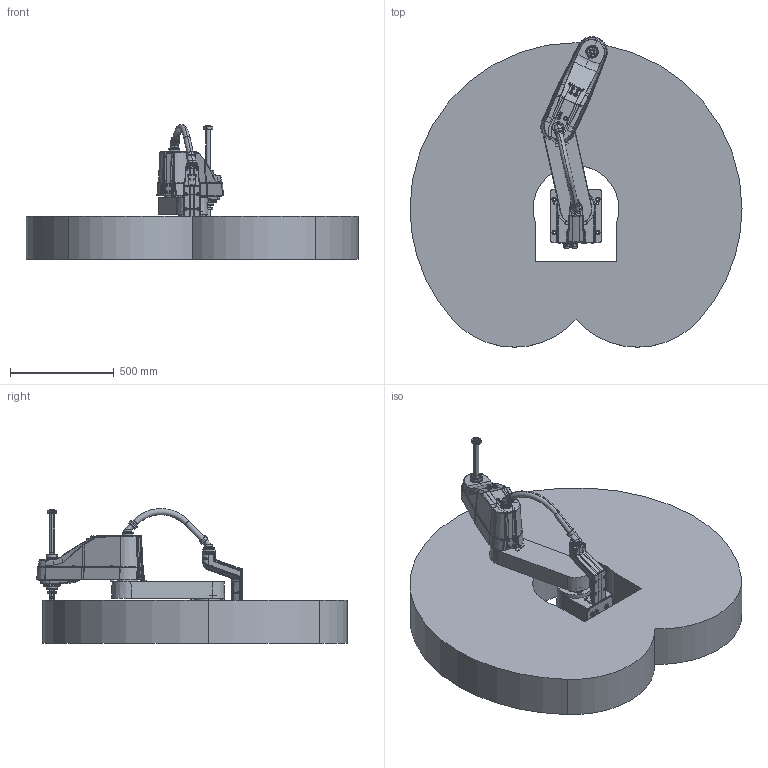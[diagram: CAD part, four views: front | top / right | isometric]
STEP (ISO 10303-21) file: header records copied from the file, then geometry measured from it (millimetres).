
FILE_DESCRIPTION (( 'STEP AP203' ), '1' );
FILE_NAME ('Python800-B10 1.240BA.00.00.C.STEP', '2024-05-13T01:11:46', ( '' ), ( '' ), 'SwSTEP 2.0', 'SolidWorks 2021', '' );
FILE_SCHEMA (( 'CONFIG_CONTROL_DESIGN' ));
Length unit declared in the file: millimetre
Products named in the file (7): 复件 Python800-B10-45°旋转线束-^Python800-B10 1.240BA.00.00.C; 葩璃 Python800-B10葩磁粣^Python800-B10 1.240BA.00.00.C; 葩璃 Python800-B10馱釬諾潔.step^Python800-B10 1.240BA.00.00.C; 葩璃 Python800-B10湮旋^Python800-B10 1.240BA.00.00.C; 葩璃 Python800-B10菁釱蚾饜极^Python800-B10 1.240BA.00.00.C; 葩璃 Python800-B10苤旋^Python800-B10 1.240BA.00.00.C; Python800-B10 1.240BA.00.00.C
Assembly tree (6 placements, depth 2):
  Python800-B10 1.240BA.00.00.C
    葩璃 Python800-B10菁釱蚾饜极^Python800-B10 1.240BA.00.00.C
    葩璃 Python800-B10湮旋^Python800-B10 1.240BA.00.00.C
    葩璃 Python800-B10苤旋^Python800-B10 1.240BA.00.00.C
    葩璃 Python800-B10葩磁粣^Python800-B10 1.240BA.00.00.C
    葩璃 Python800-B10馱釬諾潔.step^Python800-B10 1.240BA.00.00.C
    复件 Python800-B10-45°旋转线束-^Python800-B10 1.240BA.00.00.C
Bounding box: 1600 x 1495.89 x 649.38 mm (x, y, z)
Volume: 380719827.4 mm3; surface area: 6756239.2 mm2
Topology: 67 solids, 67 shells, 3298 faces, 8041 edges, 5023 vertices
Faces by surface type: cylinder 1233, plane 1071, bspline 570, cone 275, torus 133, sphere 16
Entity records: 141934 total; most frequent: CARTESIAN_POINT 66918, ORIENTED_EDGE 16044, DIRECTION 14680, EDGE_CURVE 8022, AXIS2_PLACEMENT_3D 5725, VERTEX_POINT 5021, EDGE_LOOP 3705, ADVANCED_FACE 3298
